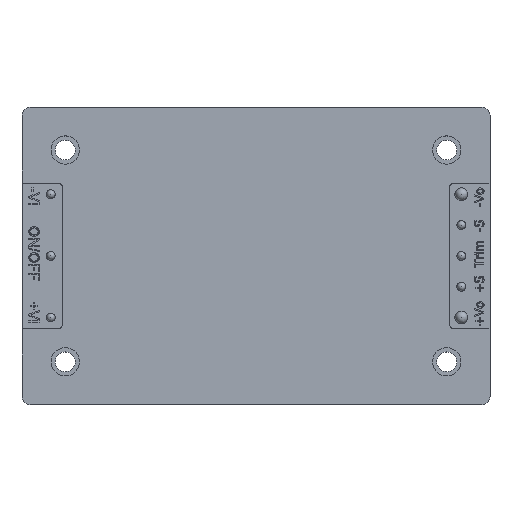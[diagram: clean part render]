
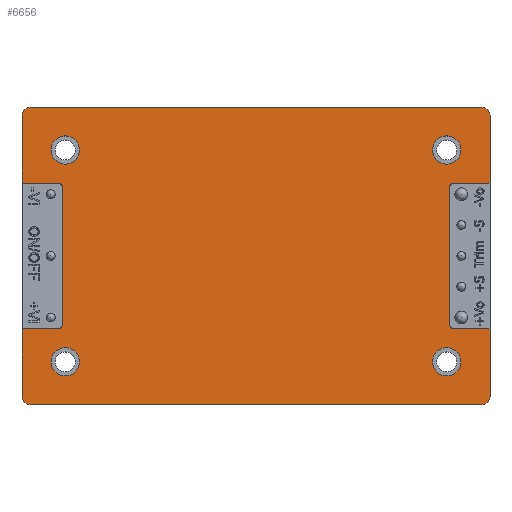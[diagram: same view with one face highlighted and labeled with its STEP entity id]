
A CAD part, top view. The second image highlights one B-rep face of the part: STEP entity #6656.
In plain terms, the highlighted planar face has unit normal (0, 0, 1).
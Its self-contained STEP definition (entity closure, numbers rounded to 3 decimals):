
#897=LINE('',#11431,#1561);
#898=LINE('',#11433,#1562);
#899=LINE('',#11437,#1563);
#900=LINE('',#11441,#1564);
#901=LINE('',#11443,#1565);
#902=LINE('',#11447,#1566);
#903=LINE('',#11451,#1567);
#904=LINE('',#11453,#1568);
#905=LINE('',#11457,#1569);
#906=LINE('',#11461,#1570);
#907=LINE('',#11463,#1571);
#908=LINE('',#11466,#1572);
#1561=VECTOR('',#8374,8.4);
#1562=VECTOR('',#8375,4.5);
#1563=VECTOR('',#8378,17.);
#1564=VECTOR('',#8381,4.5);
#1565=VECTOR('',#8382,8.4);
#1566=VECTOR('',#8385,55.9);
#1567=VECTOR('',#8388,8.4);
#1568=VECTOR('',#8389,4.5);
#1569=VECTOR('',#8392,17.);
#1570=VECTOR('',#8395,4.5);
#1571=VECTOR('',#8396,8.4);
#1572=VECTOR('',#8399,55.9);
#1822=PLANE('',#7025);
#1914=FACE_BOUND('',#2775,.T.);
#1915=FACE_BOUND('',#2776,.T.);
#1916=FACE_BOUND('',#2777,.T.);
#1917=FACE_BOUND('',#2778,.T.);
#2319=FACE_OUTER_BOUND('',#2774,.T.);
#2774=EDGE_LOOP('',(#6156,#6157,#6158,#6159,#6160,#6161,#6162,#6163,#6164,
#6165,#6166,#6167,#6168,#6169,#6170,#6171,#6172,#6173,#6174,#6175));
#2775=EDGE_LOOP('',(#6176));
#2776=EDGE_LOOP('',(#6177));
#2777=EDGE_LOOP('',(#6178));
#2778=EDGE_LOOP('',(#6179));
#2896=CIRCLE('',#7023,1.);
#2898=CIRCLE('',#7026,0.5);
#2899=CIRCLE('',#7027,0.5);
#2900=CIRCLE('',#7028,1.);
#2901=CIRCLE('',#7029,1.);
#2902=CIRCLE('',#7030,0.5);
#2903=CIRCLE('',#7031,0.5);
#2904=CIRCLE('',#7032,1.);
#2905=CIRCLE('',#7033,1.75);
#2906=CIRCLE('',#7034,1.75);
#2907=CIRCLE('',#7035,1.75);
#2908=CIRCLE('',#7036,1.75);
#3512=VERTEX_POINT('',#11421);
#3513=VERTEX_POINT('',#11422);
#3516=VERTEX_POINT('',#11430);
#3517=VERTEX_POINT('',#11432);
#3518=VERTEX_POINT('',#11434);
#3519=VERTEX_POINT('',#11436);
#3520=VERTEX_POINT('',#11438);
#3521=VERTEX_POINT('',#11440);
#3522=VERTEX_POINT('',#11442);
#3523=VERTEX_POINT('',#11444);
#3524=VERTEX_POINT('',#11446);
#3525=VERTEX_POINT('',#11448);
#3526=VERTEX_POINT('',#11450);
#3527=VERTEX_POINT('',#11452);
#3528=VERTEX_POINT('',#11454);
#3529=VERTEX_POINT('',#11456);
#3530=VERTEX_POINT('',#11458);
#3531=VERTEX_POINT('',#11460);
#3532=VERTEX_POINT('',#11462);
#3533=VERTEX_POINT('',#11464);
#3534=VERTEX_POINT('',#11467);
#3535=VERTEX_POINT('',#11469);
#3536=VERTEX_POINT('',#11471);
#3537=VERTEX_POINT('',#11473);
#4412=EDGE_CURVE('',#3512,#3513,#2896,.T.);
#4416=EDGE_CURVE('',#3516,#3512,#897,.T.);
#4417=EDGE_CURVE('',#3516,#3517,#898,.T.);
#4418=EDGE_CURVE('',#3518,#3517,#2898,.T.);
#4419=EDGE_CURVE('',#3518,#3519,#899,.T.);
#4420=EDGE_CURVE('',#3520,#3519,#2899,.T.);
#4421=EDGE_CURVE('',#3520,#3521,#900,.T.);
#4422=EDGE_CURVE('',#3522,#3521,#901,.T.);
#4423=EDGE_CURVE('',#3523,#3522,#2900,.T.);
#4424=EDGE_CURVE('',#3524,#3523,#902,.T.);
#4425=EDGE_CURVE('',#3525,#3524,#2901,.T.);
#4426=EDGE_CURVE('',#3526,#3525,#903,.T.);
#4427=EDGE_CURVE('',#3526,#3527,#904,.T.);
#4428=EDGE_CURVE('',#3528,#3527,#2902,.T.);
#4429=EDGE_CURVE('',#3528,#3529,#905,.T.);
#4430=EDGE_CURVE('',#3530,#3529,#2903,.T.);
#4431=EDGE_CURVE('',#3530,#3531,#906,.T.);
#4432=EDGE_CURVE('',#3532,#3531,#907,.T.);
#4433=EDGE_CURVE('',#3533,#3532,#2904,.T.);
#4434=EDGE_CURVE('',#3513,#3533,#908,.T.);
#4435=EDGE_CURVE('',#3534,#3534,#2905,.T.);
#4436=EDGE_CURVE('',#3535,#3535,#2906,.T.);
#4437=EDGE_CURVE('',#3536,#3536,#2907,.T.);
#4438=EDGE_CURVE('',#3537,#3537,#2908,.T.);
#6156=ORIENTED_EDGE('',*,*,#4412,.F.);
#6157=ORIENTED_EDGE('',*,*,#4416,.F.);
#6158=ORIENTED_EDGE('',*,*,#4417,.T.);
#6159=ORIENTED_EDGE('',*,*,#4418,.F.);
#6160=ORIENTED_EDGE('',*,*,#4419,.T.);
#6161=ORIENTED_EDGE('',*,*,#4420,.F.);
#6162=ORIENTED_EDGE('',*,*,#4421,.T.);
#6163=ORIENTED_EDGE('',*,*,#4422,.F.);
#6164=ORIENTED_EDGE('',*,*,#4423,.F.);
#6165=ORIENTED_EDGE('',*,*,#4424,.F.);
#6166=ORIENTED_EDGE('',*,*,#4425,.F.);
#6167=ORIENTED_EDGE('',*,*,#4426,.F.);
#6168=ORIENTED_EDGE('',*,*,#4427,.T.);
#6169=ORIENTED_EDGE('',*,*,#4428,.F.);
#6170=ORIENTED_EDGE('',*,*,#4429,.T.);
#6171=ORIENTED_EDGE('',*,*,#4430,.F.);
#6172=ORIENTED_EDGE('',*,*,#4431,.T.);
#6173=ORIENTED_EDGE('',*,*,#4432,.F.);
#6174=ORIENTED_EDGE('',*,*,#4433,.F.);
#6175=ORIENTED_EDGE('',*,*,#4434,.F.);
#6176=ORIENTED_EDGE('',*,*,#4435,.T.);
#6177=ORIENTED_EDGE('',*,*,#4436,.T.);
#6178=ORIENTED_EDGE('',*,*,#4437,.T.);
#6179=ORIENTED_EDGE('',*,*,#4438,.T.);
#6656=ADVANCED_FACE('',(#2319,#1914,#1915,#1916,#1917),#1822,.T.);
#7023=AXIS2_PLACEMENT_3D('',#11423,#8366,#8367);
#7025=AXIS2_PLACEMENT_3D('',#11429,#8372,#8373);
#7026=AXIS2_PLACEMENT_3D('',#11435,#8376,#8377);
#7027=AXIS2_PLACEMENT_3D('',#11439,#8379,#8380);
#7028=AXIS2_PLACEMENT_3D('',#11445,#8383,#8384);
#7029=AXIS2_PLACEMENT_3D('',#11449,#8386,#8387);
#7030=AXIS2_PLACEMENT_3D('',#11455,#8390,#8391);
#7031=AXIS2_PLACEMENT_3D('',#11459,#8393,#8394);
#7032=AXIS2_PLACEMENT_3D('',#11465,#8397,#8398);
#7033=AXIS2_PLACEMENT_3D('',#11468,#8400,#8401);
#7034=AXIS2_PLACEMENT_3D('',#11470,#8402,#8403);
#7035=AXIS2_PLACEMENT_3D('',#11472,#8404,#8405);
#7036=AXIS2_PLACEMENT_3D('',#11474,#8406,#8407);
#8366=DIRECTION('center_axis',(0.,0.,-1.));
#8367=DIRECTION('ref_axis',(-0.707,0.707,0.));
#8372=DIRECTION('center_axis',(0.,0.,1.));
#8373=DIRECTION('ref_axis',(1.,0.,0.));
#8374=DIRECTION('',(0.,1.,0.));
#8375=DIRECTION('',(1.,0.,0.));
#8376=DIRECTION('center_axis',(0.,0.,1.));
#8377=DIRECTION('ref_axis',(0.707,0.707,0.));
#8378=DIRECTION('',(0.,-1.,0.));
#8379=DIRECTION('center_axis',(0.,0.,1.));
#8380=DIRECTION('ref_axis',(0.707,-0.707,0.));
#8381=DIRECTION('',(-1.,0.,0.));
#8382=DIRECTION('',(0.,1.,0.));
#8383=DIRECTION('center_axis',(0.,0.,-1.));
#8384=DIRECTION('ref_axis',(-0.707,-0.707,0.));
#8385=DIRECTION('',(-1.,0.,0.));
#8386=DIRECTION('center_axis',(0.,0.,-1.));
#8387=DIRECTION('ref_axis',(0.707,-0.707,0.));
#8388=DIRECTION('',(0.,-1.,0.));
#8389=DIRECTION('',(-1.,0.,0.));
#8390=DIRECTION('center_axis',(0.,0.,1.));
#8391=DIRECTION('ref_axis',(-0.707,-0.707,0.));
#8392=DIRECTION('',(0.,1.,0.));
#8393=DIRECTION('center_axis',(0.,0.,1.));
#8394=DIRECTION('ref_axis',(-0.707,0.707,0.));
#8395=DIRECTION('',(1.,0.,0.));
#8396=DIRECTION('',(0.,-1.,0.));
#8397=DIRECTION('center_axis',(0.,0.,-1.));
#8398=DIRECTION('ref_axis',(0.707,0.707,0.));
#8399=DIRECTION('',(1.,0.,0.));
#8400=DIRECTION('center_axis',(0.,0.,-1.));
#8401=DIRECTION('ref_axis',(1.,0.,0.));
#8402=DIRECTION('center_axis',(0.,0.,-1.));
#8403=DIRECTION('ref_axis',(1.,0.,0.));
#8404=DIRECTION('center_axis',(0.,0.,-1.));
#8405=DIRECTION('ref_axis',(1.,0.,0.));
#8406=DIRECTION('center_axis',(0.,0.,-1.));
#8407=DIRECTION('ref_axis',(1.,0.,0.));
#11421=CARTESIAN_POINT('',(-28.95,17.4,1.5));
#11422=CARTESIAN_POINT('',(-27.95,18.4,1.5));
#11423=CARTESIAN_POINT('Origin',(-27.95,17.4,1.5));
#11429=CARTESIAN_POINT('Origin',(0.,0.,
1.5));
#11430=CARTESIAN_POINT('',(-28.95,9.,1.5));
#11431=CARTESIAN_POINT('',(-28.95,-18.4,1.5));
#11432=CARTESIAN_POINT('',(-24.45,9.,1.5));
#11433=CARTESIAN_POINT('',(-11.975,9.,1.5));
#11434=CARTESIAN_POINT('',(-23.95,8.5,1.5));
#11435=CARTESIAN_POINT('Origin',(-24.45,8.5,1.5));
#11436=CARTESIAN_POINT('',(-23.95,-8.5,1.5));
#11437=CARTESIAN_POINT('',(-23.95,-4.5,1.5));
#11438=CARTESIAN_POINT('',(-24.45,-9.,1.5));
#11439=CARTESIAN_POINT('Origin',(-24.45,-8.5,1.5));
#11440=CARTESIAN_POINT('',(-28.95,-9.,1.5));
#11441=CARTESIAN_POINT('',(-14.475,-9.,1.5));
#11442=CARTESIAN_POINT('',(-28.95,-17.4,1.5));
#11443=CARTESIAN_POINT('',(-28.95,-18.4,1.5));
#11444=CARTESIAN_POINT('',(-27.95,-18.4,1.5));
#11445=CARTESIAN_POINT('Origin',(-27.95,-17.4,1.5));
#11446=CARTESIAN_POINT('',(27.95,-18.4,1.5));
#11447=CARTESIAN_POINT('',(28.95,-18.4,1.5));
#11448=CARTESIAN_POINT('',(28.95,-17.4,1.5));
#11449=CARTESIAN_POINT('Origin',(27.95,-17.4,1.5));
#11450=CARTESIAN_POINT('',(28.95,-9.,1.5));
#11451=CARTESIAN_POINT('',(28.95,18.4,1.5));
#11452=CARTESIAN_POINT('',(24.45,-9.,1.5));
#11453=CARTESIAN_POINT('',(11.975,-9.,1.5));
#11454=CARTESIAN_POINT('',(23.95,-8.5,1.5));
#11455=CARTESIAN_POINT('Origin',(24.45,-8.5,1.5));
#11456=CARTESIAN_POINT('',(23.95,8.5,1.5));
#11457=CARTESIAN_POINT('',(23.95,4.5,1.5));
#11458=CARTESIAN_POINT('',(24.45,9.,1.5));
#11459=CARTESIAN_POINT('Origin',(24.45,8.5,1.5));
#11460=CARTESIAN_POINT('',(28.95,9.,1.5));
#11461=CARTESIAN_POINT('',(14.475,9.,1.5));
#11462=CARTESIAN_POINT('',(28.95,17.4,1.5));
#11463=CARTESIAN_POINT('',(28.95,18.4,1.5));
#11464=CARTESIAN_POINT('',(27.95,18.4,1.5));
#11465=CARTESIAN_POINT('Origin',(27.95,17.4,1.5));
#11466=CARTESIAN_POINT('',(-28.95,18.4,1.5));
#11467=CARTESIAN_POINT('',(-21.85,-13.1,1.5));
#11468=CARTESIAN_POINT('Origin',(-23.6,-13.1,1.5));
#11469=CARTESIAN_POINT('',(25.35,13.1,1.5));
#11470=CARTESIAN_POINT('Origin',(23.6,13.1,1.5));
#11471=CARTESIAN_POINT('',(-21.85,13.1,1.5));
#11472=CARTESIAN_POINT('Origin',(-23.6,13.1,1.5));
#11473=CARTESIAN_POINT('',(25.35,-13.1,1.5));
#11474=CARTESIAN_POINT('Origin',(23.6,-13.1,1.5));
